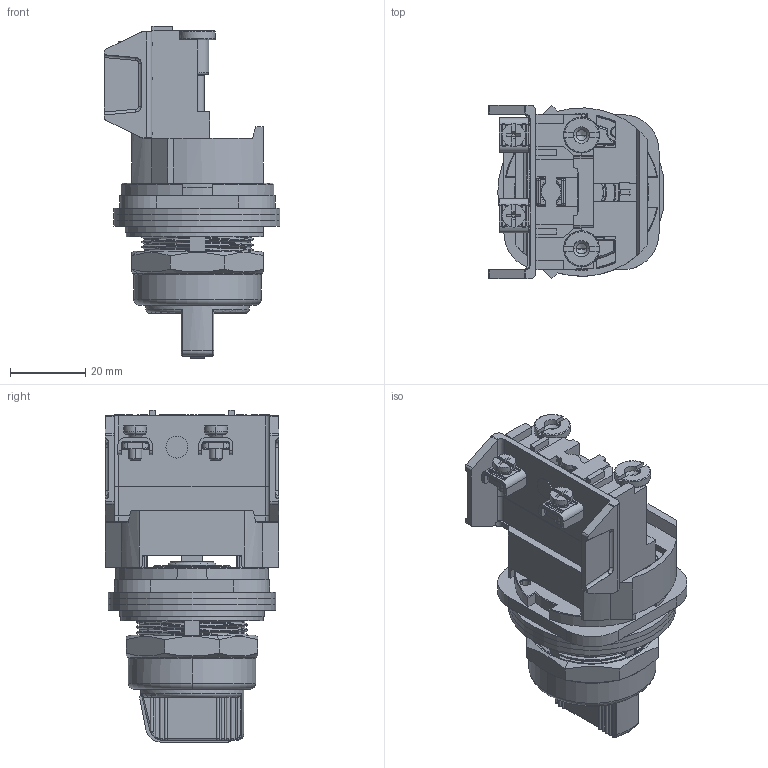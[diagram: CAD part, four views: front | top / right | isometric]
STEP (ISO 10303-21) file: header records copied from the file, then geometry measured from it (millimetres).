
FILE_DESCRIPTION((''),'2;1');
FILE_NAME('PRT0001','2022-04-11T07:10:12',('MKukiela'),('Rockwell Automation'),'CREO PARAMETRIC BY PTC INC, 2020281','CREO PARAMETRIC BY PTC INC, 2020281','');
FILE_SCHEMA(('CONFIG_CONTROL_DESIGN'));
Products named in the file (1): PRT0001
Bounding box: 46.6 x 46 x 88.09 mm (x, y, z)
Surface area: 54024.1 mm2 (no closed solid volume)
Topology: 0 solids, 27 shells, 3242 faces, 8458 edges, 5276 vertices
Faces by surface type: plane 1522, cylinder 877, bspline 302, torus 205, cone 190, sphere 146
Entity records: 134395 total; most frequent: CARTESIAN_POINT 56726, ORIENTED_EDGE 16852, DIRECTION 15435, EDGE_CURVE 8426, VERTEX_POINT 5276, AXIS2_PLACEMENT_3D 5271, VECTOR 4893, LINE 4893
